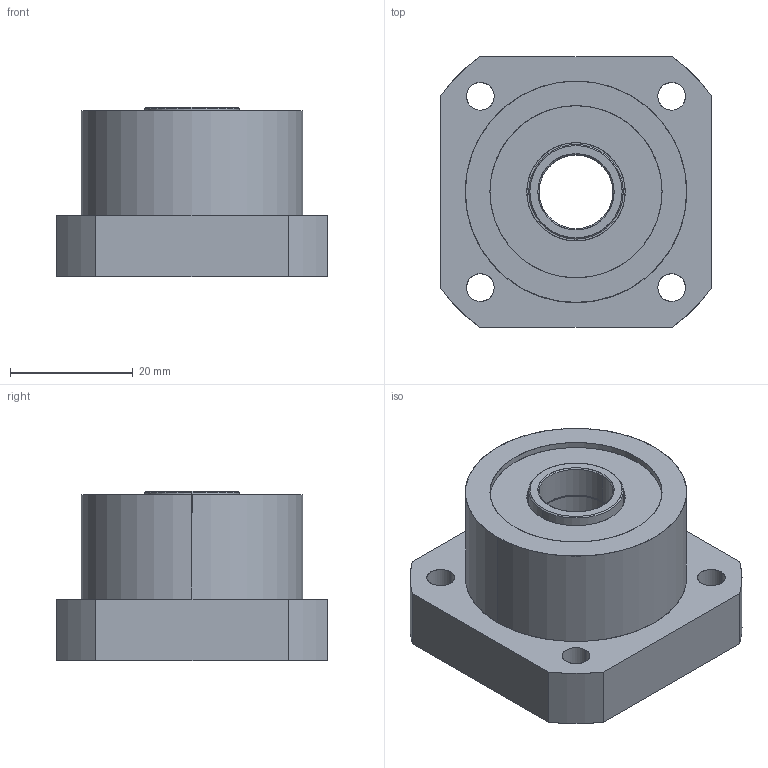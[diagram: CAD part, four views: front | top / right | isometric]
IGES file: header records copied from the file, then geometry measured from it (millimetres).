
Start section: SolidWorks IGES file using analytic representation for surfaces
Global section: file name: E:\同创达图纸\产品示意图\3D选型图\支撑座\FK系列\FK12.IGS; native system: SolidWorks 2012; preprocessor: SolidWorks 2012; author: gao; date: 130702.204815; units: millimetre
Bounding box: 44 x 44 x 27.5 mm (x, y, z)
Surface area: 10120.8 mm2 (no closed solid volume)
Topology: 0 solids, 0 shells, 75 faces, 1624 edges, 1624 vertices
Faces by surface type: revolution 56, bspline 19
